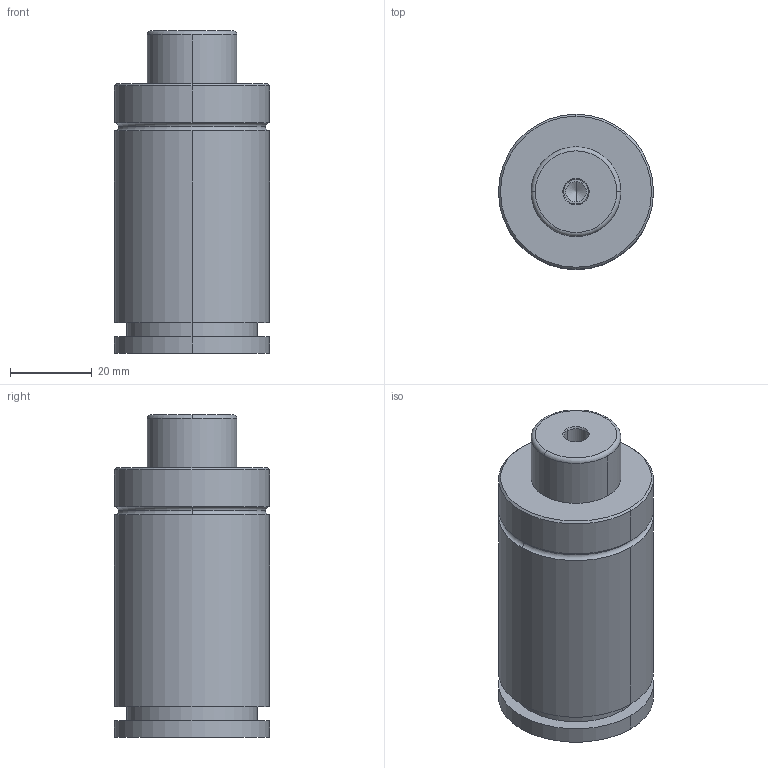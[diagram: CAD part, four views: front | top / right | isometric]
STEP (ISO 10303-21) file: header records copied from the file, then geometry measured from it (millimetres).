
FILE_DESCRIPTION(('FreeCAD Model'),'2;1');
FILE_NAME('Open CASCADE Shape Model','2024-11-12T15:42:06',('Author'),( ''),'Open CASCADE STEP processor 7.6','FreeCAD','Unknown');
FILE_SCHEMA(('AUTOMOTIVE_DESIGN { 1 0 10303 214 1 1 1 1 }'));
Length unit declared in the file: millimetre
Products named in the file (3): Part001; Cut; 2
Assembly tree (2 placements, depth 2):
  Part001
    Cut
    2
Bounding box: 38 x 38 x 79 mm (x, y, z)
Volume: 72361.1 mm3; surface area: 14199.7 mm2
Topology: 2 solids, 2 shells, 43 faces, 89 edges, 56 vertices
Faces by surface type: cylinder 20, plane 11, torus 6, cone 6
Full cylindrical faces by diameter (mm): 6 x2
Entity records: 1221 total; most frequent: DIRECTION 240, CARTESIAN_POINT 189, ORIENTED_EDGE 174, AXIS2_PLACEMENT_3D 107, EDGE_CURVE 87, CIRCLE 61, VERTEX_POINT 56, FACE_BOUND 51
